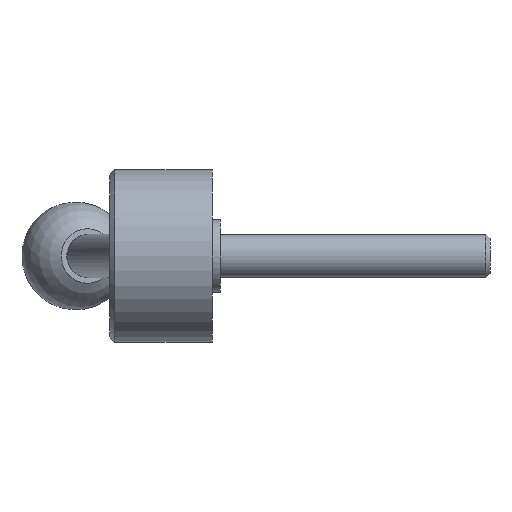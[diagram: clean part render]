
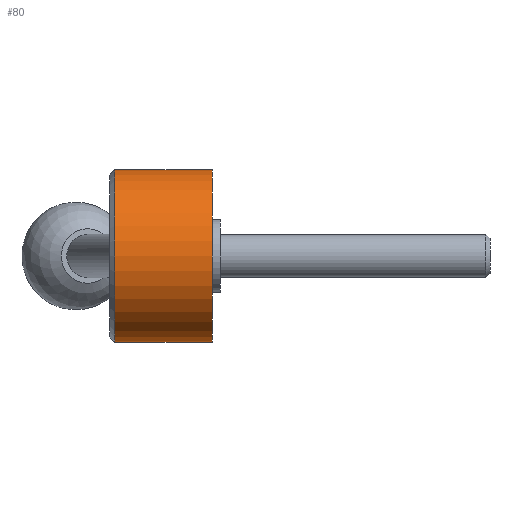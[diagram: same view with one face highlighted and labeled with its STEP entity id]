
A CAD part, left-side view. The second image highlights one B-rep face of the part: STEP entity #80.
In plain terms, the highlighted cylindrical face has radius 16 mm (diameter 32 mm), a full revolution.
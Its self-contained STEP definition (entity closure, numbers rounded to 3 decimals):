
#80 = ADVANCED_FACE( '', ( #106, #107, #108 ), #109, .T. );
#106 = FACE_OUTER_BOUND( '', #150, .T. );
#107 = FACE_BOUND( '', #151, .T. );
#108 = FACE_OUTER_BOUND( '', #152, .T. );
#109 = CYLINDRICAL_SURFACE( '', #153, 16. );
#150 = EDGE_LOOP( '', ( #204 ) );
#151 = EDGE_LOOP( '', ( #205 ) );
#152 = EDGE_LOOP( '', ( #206 ) );
#153 = AXIS2_PLACEMENT_3D( '', #207, #208, #209 );
#204 = ORIENTED_EDGE( '', *, *, #258, .F. );
#205 = ORIENTED_EDGE( '', *, *, #259, .F. );
#206 = ORIENTED_EDGE( '', *, *, #260, .T. );
#207 = CARTESIAN_POINT( '', ( 0., 0., 0. ) );
#208 = DIRECTION( '', ( 0., 1., 0. ) );
#209 = DIRECTION( '', ( 0., 0., -1. ) );
#258 = EDGE_CURVE( '', #278, #278, #279, .T. );
#259 = EDGE_CURVE( '', #280, #280, #281, .T. );
#260 = EDGE_CURVE( '', #282, #282, #283, .T. );
#278 = VERTEX_POINT( '', #306 );
#279 = CIRCLE( '', #307, 16. );
#280 = VERTEX_POINT( '', #308 );
#281 = B_SPLINE_CURVE_WITH_KNOTS( '', 3, ( #309, #310, #311, #312, #313, #314, #315, #316, #317, #318, #319, #320, #321, #322, #323, #324, #325, #326, #327, #328, #329, #330, #331, #332, #333, #334, #335, #336, #337, #338, #339, #340, #341, #342, #343, #344, #345, #346, #347, #348, #349, #350, #351, #352, #353, #354, #355, #356, #357, #358, #359, #360, #361, #362, #363, #364, #365, #366, #367, #368, #369, #370, #371, #372, #373, #374 ), .UNSPECIFIED., .T., .F., ( 2, 2, 2, 2, 2, 2, 2, 2, 2, 2, 2, 2, 2, 2, 2, 2, 2, 2, 2, 2, 2, 2, 2, 2, 2, 2, 2, 2, 2, 2, 2, 2, 2, 2, 2 ), ( -0.001, 0., 0.001, 0.002, 0.002, 0.003, 0.004, 0.005, 0.005, 0.006, 0.007, 0.008, 0.009, 0.009, 0.01, 0.011, 0.012, 0.013, 0.013, 0.014, 0.015, 0.016, 0.016, 0.017, 0.018, 0.019, 0.02, 0.02, 0.021, 0.022, 0.023, 0.024, 0.024, 0.025, 0.026 ), .UNSPECIFIED. );
#282 = VERTEX_POINT( '', #375 );
#283 = CIRCLE( '', #376, 16. );
#306 = CARTESIAN_POINT( '', ( 0., 1.5, -16. ) );
#307 = AXIS2_PLACEMENT_3D( '', #404, #405, #406 );
#308 = CARTESIAN_POINT( '', ( 15.492, 12.5, 4. ) );
#309 = CARTESIAN_POINT( '', ( 15.492, 12.765, 4. ) );
#310 = CARTESIAN_POINT( '', ( 15.492, 12.235, 4. ) );
#311 = CARTESIAN_POINT( '', ( 15.499, 11.974, 3.974 ) );
#312 = CARTESIAN_POINT( '', ( 15.525, 11.461, 3.872 ) );
#313 = CARTESIAN_POINT( '', ( 15.544, 11.207, 3.794 ) );
#314 = CARTESIAN_POINT( '', ( 15.592, 10.723, 3.593 ) );
#315 = CARTESIAN_POINT( '', ( 15.62, 10.493, 3.47 ) );
#316 = CARTESIAN_POINT( '', ( 15.682, 10.06, 3.18 ) );
#317 = CARTESIAN_POINT( '', ( 15.715, 9.855, 3.012 ) );
#318 = CARTESIAN_POINT( '', ( 15.781, 9.488, 2.644 ) );
#319 = CARTESIAN_POINT( '', ( 15.814, 9.322, 2.444 ) );
#320 = CARTESIAN_POINT( '', ( 15.875, 9.03, 2.007 ) );
#321 = CARTESIAN_POINT( '', ( 15.903, 8.906, 1.776 ) );
#322 = CARTESIAN_POINT( '', ( 15.949, 8.706, 1.295 ) );
#323 = CARTESIAN_POINT( '', ( 15.968, 8.629, 1.042 ) );
#324 = CARTESIAN_POINT( '', ( 15.993, 8.526, 0.525 ) );
#325 = CARTESIAN_POINT( '', ( 16., 8.5, 0.265 ) );
#326 = CARTESIAN_POINT( '', ( 16., 8.5, -0.26 ) );
#327 = CARTESIAN_POINT( '', ( 15.993, 8.526, -0.526 ) );
#328 = CARTESIAN_POINT( '', ( 15.968, 8.629, -1.04 ) );
#329 = CARTESIAN_POINT( '', ( 15.95, 8.704, -1.29 ) );
#330 = CARTESIAN_POINT( '', ( 15.903, 8.906, -1.775 ) );
#331 = CARTESIAN_POINT( '', ( 15.875, 9.031, -2.008 ) );
#332 = CARTESIAN_POINT( '', ( 15.814, 9.32, -2.44 ) );
#333 = CARTESIAN_POINT( '', ( 15.781, 9.486, -2.643 ) );
#334 = CARTESIAN_POINT( '', ( 15.715, 9.857, -3.014 ) );
#335 = CARTESIAN_POINT( '', ( 15.682, 10.058, -3.178 ) );
#336 = CARTESIAN_POINT( '', ( 15.62, 10.49, -3.468 ) );
#337 = CARTESIAN_POINT( '', ( 15.592, 10.724, -3.594 ) );
#338 = CARTESIAN_POINT( '', ( 15.544, 11.207, -3.794 ) );
#339 = CARTESIAN_POINT( '', ( 15.525, 11.456, -3.87 ) );
#340 = CARTESIAN_POINT( '', ( 15.499, 11.971, -3.974 ) );
#341 = CARTESIAN_POINT( '', ( 15.492, 12.237, -4. ) );
#342 = CARTESIAN_POINT( '', ( 15.492, 12.76, -4. ) );
#343 = CARTESIAN_POINT( '', ( 15.499, 13.021, -3.975 ) );
#344 = CARTESIAN_POINT( '', ( 15.525, 13.541, -3.871 ) );
#345 = CARTESIAN_POINT( '', ( 15.544, 13.791, -3.795 ) );
#346 = CARTESIAN_POINT( '', ( 15.591, 14.273, -3.595 ) );
#347 = CARTESIAN_POINT( '', ( 15.62, 14.507, -3.47 ) );
#348 = CARTESIAN_POINT( '', ( 15.682, 14.941, -3.18 ) );
#349 = CARTESIAN_POINT( '', ( 15.714, 15.142, -3.015 ) );
#350 = CARTESIAN_POINT( '', ( 15.781, 15.511, -2.646 ) );
#351 = CARTESIAN_POINT( '', ( 15.814, 15.679, -2.442 ) );
#352 = CARTESIAN_POINT( '', ( 15.875, 15.968, -2.01 ) );
#353 = CARTESIAN_POINT( '', ( 15.903, 16.092, -1.78 ) );
#354 = CARTESIAN_POINT( '', ( 15.949, 16.294, -1.294 ) );
#355 = CARTESIAN_POINT( '', ( 15.968, 16.371, -1.042 ) );
#356 = CARTESIAN_POINT( '', ( 15.993, 16.473, -0.53 ) );
#357 = CARTESIAN_POINT( '', ( 16., 16.5, -0.266 ) );
#358 = CARTESIAN_POINT( '', ( 16., 16.5, 0.262 ) );
#359 = CARTESIAN_POINT( '', ( 15.994, 16.474, 0.522 ) );
#360 = CARTESIAN_POINT( '', ( 15.968, 16.372, 1.036 ) );
#361 = CARTESIAN_POINT( '', ( 15.95, 16.295, 1.291 ) );
#362 = CARTESIAN_POINT( '', ( 15.903, 16.095, 1.774 ) );
#363 = CARTESIAN_POINT( '', ( 15.876, 15.972, 2.004 ) );
#364 = CARTESIAN_POINT( '', ( 15.814, 15.68, 2.44 ) );
#365 = CARTESIAN_POINT( '', ( 15.781, 15.514, 2.643 ) );
#366 = CARTESIAN_POINT( '', ( 15.715, 15.147, 3.01 ) );
#367 = CARTESIAN_POINT( '', ( 15.682, 14.944, 3.177 ) );
#368 = CARTESIAN_POINT( '', ( 15.62, 14.508, 3.469 ) );
#369 = CARTESIAN_POINT( '', ( 15.592, 14.279, 3.592 ) );
#370 = CARTESIAN_POINT( '', ( 15.544, 13.797, 3.793 ) );
#371 = CARTESIAN_POINT( '', ( 15.525, 13.542, 3.871 ) );
#372 = CARTESIAN_POINT( '', ( 15.499, 13.027, 3.974 ) );
#373 = CARTESIAN_POINT( '', ( 15.492, 12.765, 4. ) );
#374 = CARTESIAN_POINT( '', ( 15.492, 12.235, 4. ) );
#375 = CARTESIAN_POINT( '', ( 0., 19.5, -16. ) );
#376 = AXIS2_PLACEMENT_3D( '', #407, #408, #409 );
#404 = CARTESIAN_POINT( '', ( 0., 1.5, 0. ) );
#405 = DIRECTION( '', ( 0., -1., 0. ) );
#406 = DIRECTION( '', ( 0., 0., -1. ) );
#407 = CARTESIAN_POINT( '', ( 0., 19.5, 0. ) );
#408 = DIRECTION( '', ( 0., -1., 0. ) );
#409 = DIRECTION( '', ( 0., 0., -1. ) );
